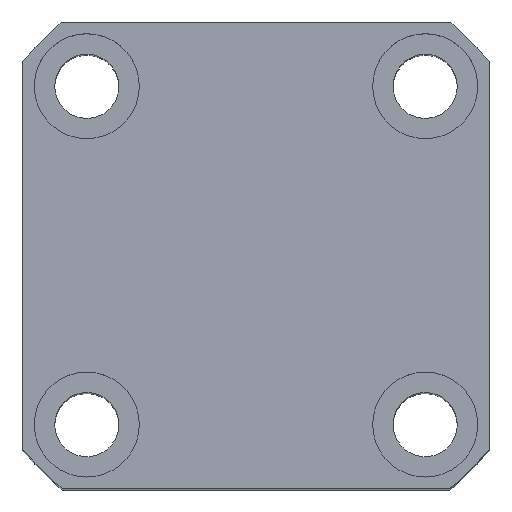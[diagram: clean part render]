
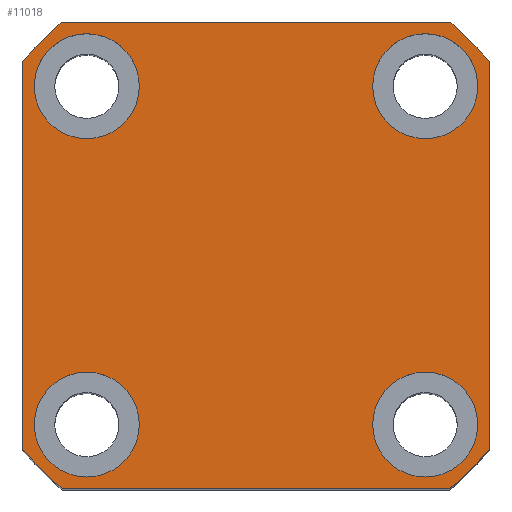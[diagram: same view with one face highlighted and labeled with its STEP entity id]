
A CAD part, top view. The second image highlights one B-rep face of the part: STEP entity #11018.
In plain terms, the highlighted planar face has unit normal (0, 0, 1).
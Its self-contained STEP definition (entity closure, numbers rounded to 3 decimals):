
#100 = CARTESIAN_POINT ( 'NONE',  ( 0., 0., 62.5 ) ) ;
#274 = AXIS2_PLACEMENT_3D ( 'NONE', #7917, #6679, #12432 ) ;
#307 = FACE_OUTER_BOUND ( 'NONE', #9404, .T. ) ;
#426 = VECTOR ( 'NONE', #11763, 1000. ) ;
#509 = CARTESIAN_POINT ( 'NONE',  ( -29., 29., 62.5 ) ) ;
#523 = PLANE ( 'NONE',  #8938 ) ;
#538 = EDGE_LOOP ( 'NONE', ( #10314, #7952 ) ) ;
#904 = CARTESIAN_POINT ( 'NONE',  ( -40., 33.226, 62.5 ) ) ;
#950 = ORIENTED_EDGE ( 'NONE', *, *, #14123, .F. ) ;
#968 = DIRECTION ( 'NONE',  ( 0., 0., 1. ) ) ;
#1148 = CARTESIAN_POINT ( 'NONE',  ( 33.226, -40., 62.5 ) ) ;
#1236 = DIRECTION ( 'NONE',  ( 1., 0., 0. ) ) ;
#1259 = VERTEX_POINT ( 'NONE', #12824 ) ;
#1416 = ORIENTED_EDGE ( 'NONE', *, *, #4286, .F. ) ;
#1486 = VERTEX_POINT ( 'NONE', #4954 ) ;
#1489 = LINE ( 'NONE', #11974, #13236 ) ;
#1546 = FACE_BOUND ( 'NONE', #12846, .T. ) ;
#1794 = LINE ( 'NONE', #14682, #9446 ) ;
#1805 = AXIS2_PLACEMENT_3D ( 'NONE', #100, #12580, #1236 ) ;
#2267 = EDGE_CURVE ( 'NONE', #12126, #1486, #11819, .T. ) ;
#2587 = VECTOR ( 'NONE', #13596, 1000. ) ;
#2681 = CIRCLE ( 'NONE', #12000, 9. ) ;
#2710 = CIRCLE ( 'NONE', #9319, 52. ) ;
#2791 = DIRECTION ( 'NONE',  ( 0., 1., 0. ) ) ;
#2795 = DIRECTION ( 'NONE',  ( 1., 0., 0. ) ) ;
#2858 = CARTESIAN_POINT ( 'NONE',  ( 29., 29., 62.5 ) ) ;
#2945 = DIRECTION ( 'NONE',  ( 0., 0., 1. ) ) ;
#2947 = ORIENTED_EDGE ( 'NONE', *, *, #7036, .F. ) ;
#3022 = EDGE_CURVE ( 'NONE', #3925, #7409, #11095, .T. ) ;
#3119 = CARTESIAN_POINT ( 'NONE',  ( 40., 33.226, 62.5 ) ) ;
#3175 = ORIENTED_EDGE ( 'NONE', *, *, #2267, .F. ) ;
#3275 = CARTESIAN_POINT ( 'NONE',  ( 40., -33.226, 62.5 ) ) ;
#3402 = VERTEX_POINT ( 'NONE', #10396 ) ;
#3671 = DIRECTION ( 'NONE',  ( 1., 0., 0. ) ) ;
#3725 = VERTEX_POINT ( 'NONE', #8891 ) ;
#3776 = AXIS2_PLACEMENT_3D ( 'NONE', #2858, #5097, #13079 ) ;
#3888 = EDGE_CURVE ( 'NONE', #1486, #12126, #2681, .T. ) ;
#3925 = VERTEX_POINT ( 'NONE', #5946 ) ;
#3970 = CARTESIAN_POINT ( 'NONE',  ( -29., -29., 62.5 ) ) ;
#3975 = CIRCLE ( 'NONE', #7507, 9. ) ;
#3994 = CARTESIAN_POINT ( 'NONE',  ( -33.226, -40., 62.5 ) ) ;
#4019 = VERTEX_POINT ( 'NONE', #11948 ) ;
#4234 = ORIENTED_EDGE ( 'NONE', *, *, #3022, .T. ) ;
#4266 = EDGE_CURVE ( 'NONE', #14599, #3402, #1794, .T. ) ;
#4286 = EDGE_CURVE ( 'NONE', #5452, #11729, #13551, .T. ) ;
#4300 = ORIENTED_EDGE ( 'NONE', *, *, #12643, .T. ) ;
#4470 = ORIENTED_EDGE ( 'NONE', *, *, #14713, .T. ) ;
#4954 = CARTESIAN_POINT ( 'NONE',  ( -20., -29., 62.5 ) ) ;
#4958 = CARTESIAN_POINT ( 'NONE',  ( -29., -29., 62.5 ) ) ;
#4991 = DIRECTION ( 'NONE',  ( 0., 0., 1. ) ) ;
#5097 = DIRECTION ( 'NONE',  ( 0., 0., 1. ) ) ;
#5186 = CARTESIAN_POINT ( 'NONE',  ( 29., -29., 62.5 ) ) ;
#5210 = DIRECTION ( 'NONE',  ( 1., 0., 0. ) ) ;
#5325 = VERTEX_POINT ( 'NONE', #3119 ) ;
#5452 = VERTEX_POINT ( 'NONE', #12545 ) ;
#5594 = LINE ( 'NONE', #904, #2587 ) ;
#5775 = EDGE_CURVE ( 'NONE', #3725, #9320, #10815, .T. ) ;
#5781 = VERTEX_POINT ( 'NONE', #9700 ) ;
#5937 = CIRCLE ( 'NONE', #14010, 9. ) ;
#5946 = CARTESIAN_POINT ( 'NONE',  ( -40., -33.226, 62.5 ) ) ;
#5997 = DIRECTION ( 'NONE',  ( 0., 0., 1. ) ) ;
#6095 = EDGE_CURVE ( 'NONE', #4019, #5781, #5937, .T. ) ;
#6119 = CARTESIAN_POINT ( 'NONE',  ( 0., 0., 62.5 ) ) ;
#6167 = DIRECTION ( 'NONE',  ( 0., 0., 1. ) ) ;
#6272 = DIRECTION ( 'NONE',  ( 1., 0., 0. ) ) ;
#6471 = CIRCLE ( 'NONE', #9204, 9. ) ;
#6612 = CIRCLE ( 'NONE', #1805, 52. ) ;
#6679 = DIRECTION ( 'NONE',  ( 0., 0., 1. ) ) ;
#6961 = CARTESIAN_POINT ( 'NONE',  ( -38., -29., 62.5 ) ) ;
#7036 = EDGE_CURVE ( 'NONE', #11729, #5452, #6471, .T. ) ;
#7356 = DIRECTION ( 'NONE',  ( 0., 0., 1. ) ) ;
#7409 = VERTEX_POINT ( 'NONE', #3994 ) ;
#7456 = ORIENTED_EDGE ( 'NONE', *, *, #9055, .T. ) ;
#7507 = AXIS2_PLACEMENT_3D ( 'NONE', #9691, #4991, #10852 ) ;
#7541 = DIRECTION ( 'NONE',  ( 0., 0., 1. ) ) ;
#7621 = VERTEX_POINT ( 'NONE', #1148 ) ;
#7670 = ORIENTED_EDGE ( 'NONE', *, *, #10324, .T. ) ;
#7917 = CARTESIAN_POINT ( 'NONE',  ( -29., 29., 62.5 ) ) ;
#7952 = ORIENTED_EDGE ( 'NONE', *, *, #6095, .F. ) ;
#8169 = AXIS2_PLACEMENT_3D ( 'NONE', #14194, #10766, #13174 ) ;
#8410 = ORIENTED_EDGE ( 'NONE', *, *, #13131, .T. ) ;
#8434 = DIRECTION ( 'NONE',  ( 0., 0., 1. ) ) ;
#8549 = DIRECTION ( 'NONE',  ( 0., 0., 1. ) ) ;
#8756 = CARTESIAN_POINT ( 'NONE',  ( 29., -29., 62.5 ) ) ;
#8765 = LINE ( 'NONE', #13084, #426 ) ;
#8891 = CARTESIAN_POINT ( 'NONE',  ( 20., 29., 62.5 ) ) ;
#8902 = DIRECTION ( 'NONE',  ( 1., 0., 0. ) ) ;
#8938 = AXIS2_PLACEMENT_3D ( 'NONE', #6119, #6167, #14117 ) ;
#9004 = AXIS2_PLACEMENT_3D ( 'NONE', #14266, #7356, #2795 ) ;
#9043 = EDGE_CURVE ( 'NONE', #7621, #9280, #2710, .T. ) ;
#9055 = EDGE_CURVE ( 'NONE', #9280, #5325, #1489, .T. ) ;
#9118 = CIRCLE ( 'NONE', #12774, 9. ) ;
#9204 = AXIS2_PLACEMENT_3D ( 'NONE', #509, #8434, #9607 ) ;
#9280 = VERTEX_POINT ( 'NONE', #3275 ) ;
#9319 = AXIS2_PLACEMENT_3D ( 'NONE', #10942, #8549, #6272 ) ;
#9320 = VERTEX_POINT ( 'NONE', #11369 ) ;
#9404 = EDGE_LOOP ( 'NONE', ( #8410, #4300, #4234, #4470, #14736, #7456, #7670, #11562 ) ) ;
#9446 = VECTOR ( 'NONE', #11344, 1000. ) ;
#9586 = DIRECTION ( 'NONE',  ( 1., 0., 0. ) ) ;
#9607 = DIRECTION ( 'NONE',  ( 1., 0., 0. ) ) ;
#9691 = CARTESIAN_POINT ( 'NONE',  ( 29., 29., 62.5 ) ) ;
#9700 = CARTESIAN_POINT ( 'NONE',  ( 38., -29., 62.5 ) ) ;
#9973 = EDGE_LOOP ( 'NONE', ( #12741, #3175 ) ) ;
#10314 = ORIENTED_EDGE ( 'NONE', *, *, #10600, .F. ) ;
#10324 = EDGE_CURVE ( 'NONE', #5325, #14599, #6612, .T. ) ;
#10396 = CARTESIAN_POINT ( 'NONE',  ( -33.226, 40., 62.5 ) ) ;
#10500 = CARTESIAN_POINT ( 'NONE',  ( -38., 29., 62.5 ) ) ;
#10600 = EDGE_CURVE ( 'NONE', #5781, #4019, #9118, .T. ) ;
#10622 = CIRCLE ( 'NONE', #8169, 52. ) ;
#10653 = EDGE_LOOP ( 'NONE', ( #950, #11266 ) ) ;
#10766 = DIRECTION ( 'NONE',  ( 0., 0., 1. ) ) ;
#10815 = CIRCLE ( 'NONE', #3776, 9. ) ;
#10852 = DIRECTION ( 'NONE',  ( 1., 0., 0. ) ) ;
#10942 = CARTESIAN_POINT ( 'NONE',  ( 0., 0., 62.5 ) ) ;
#10998 = FACE_BOUND ( 'NONE', #9973, .T. ) ;
#11018 = ADVANCED_FACE ( 'NONE', ( #13481, #10998, #1546, #14205, #307 ), #523, .T. ) ;
#11095 = CIRCLE ( 'NONE', #9004, 52. ) ;
#11266 = ORIENTED_EDGE ( 'NONE', *, *, #5775, .F. ) ;
#11344 = DIRECTION ( 'NONE',  ( -1., 0., 0. ) ) ;
#11369 = CARTESIAN_POINT ( 'NONE',  ( 38., 29., 62.5 ) ) ;
#11562 = ORIENTED_EDGE ( 'NONE', *, *, #4266, .T. ) ;
#11729 = VERTEX_POINT ( 'NONE', #10500 ) ;
#11763 = DIRECTION ( 'NONE',  ( 1., 0., 0. ) ) ;
#11819 = CIRCLE ( 'NONE', #14264, 9. ) ;
#11948 = CARTESIAN_POINT ( 'NONE',  ( 20., -29., 62.5 ) ) ;
#11974 = CARTESIAN_POINT ( 'NONE',  ( 40., 33.226, 62.5 ) ) ;
#12000 = AXIS2_PLACEMENT_3D ( 'NONE', #4958, #5997, #3671 ) ;
#12126 = VERTEX_POINT ( 'NONE', #6961 ) ;
#12432 = DIRECTION ( 'NONE',  ( 1., 0., 0. ) ) ;
#12545 = CARTESIAN_POINT ( 'NONE',  ( -20., 29., 62.5 ) ) ;
#12580 = DIRECTION ( 'NONE',  ( 0., 0., 1. ) ) ;
#12643 = EDGE_CURVE ( 'NONE', #1259, #3925, #5594, .T. ) ;
#12741 = ORIENTED_EDGE ( 'NONE', *, *, #3888, .F. ) ;
#12774 = AXIS2_PLACEMENT_3D ( 'NONE', #5186, #2945, #9586 ) ;
#12824 = CARTESIAN_POINT ( 'NONE',  ( -40., 33.226, 62.5 ) ) ;
#12846 = EDGE_LOOP ( 'NONE', ( #1416, #2947 ) ) ;
#13079 = DIRECTION ( 'NONE',  ( 1., 0., 0. ) ) ;
#13084 = CARTESIAN_POINT ( 'NONE',  ( -33.226, -40., 62.5 ) ) ;
#13131 = EDGE_CURVE ( 'NONE', #3402, #1259, #10622, .T. ) ;
#13174 = DIRECTION ( 'NONE',  ( 1., 0., 0. ) ) ;
#13236 = VECTOR ( 'NONE', #2791, 1000. ) ;
#13481 = FACE_BOUND ( 'NONE', #538, .T. ) ;
#13551 = CIRCLE ( 'NONE', #274, 9. ) ;
#13596 = DIRECTION ( 'NONE',  ( 0., -1., 0. ) ) ;
#14010 = AXIS2_PLACEMENT_3D ( 'NONE', #8756, #968, #8902 ) ;
#14117 = DIRECTION ( 'NONE',  ( 1., 0., 0. ) ) ;
#14123 = EDGE_CURVE ( 'NONE', #9320, #3725, #3975, .T. ) ;
#14194 = CARTESIAN_POINT ( 'NONE',  ( 0., 0., 62.5 ) ) ;
#14205 = FACE_BOUND ( 'NONE', #10653, .T. ) ;
#14264 = AXIS2_PLACEMENT_3D ( 'NONE', #3970, #7541, #5210 ) ;
#14266 = CARTESIAN_POINT ( 'NONE',  ( 0., 0., 62.5 ) ) ;
#14599 = VERTEX_POINT ( 'NONE', #14762 ) ;
#14682 = CARTESIAN_POINT ( 'NONE',  ( -33.226, 40., 62.5 ) ) ;
#14713 = EDGE_CURVE ( 'NONE', #7409, #7621, #8765, .T. ) ;
#14736 = ORIENTED_EDGE ( 'NONE', *, *, #9043, .T. ) ;
#14762 = CARTESIAN_POINT ( 'NONE',  ( 33.226, 40., 62.5 ) ) ;
